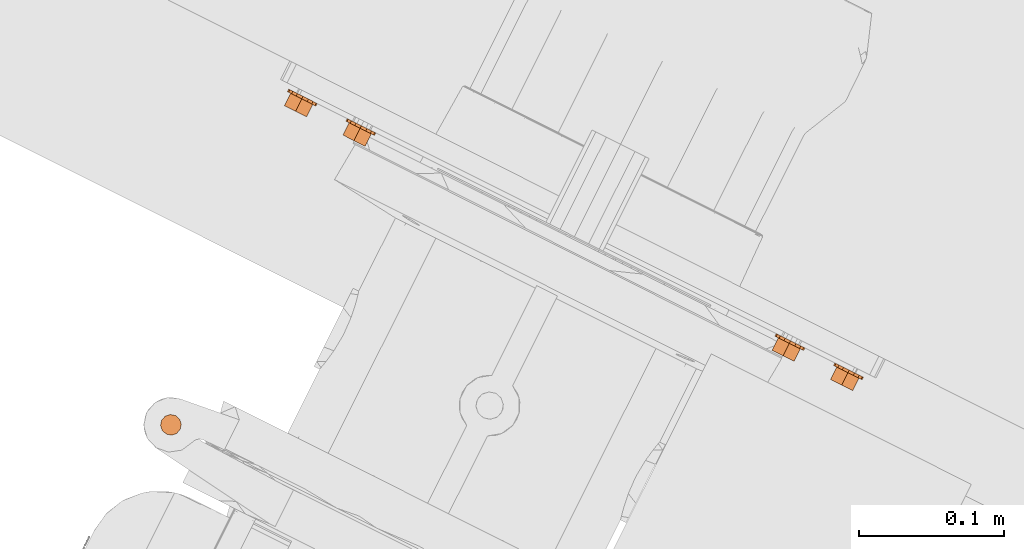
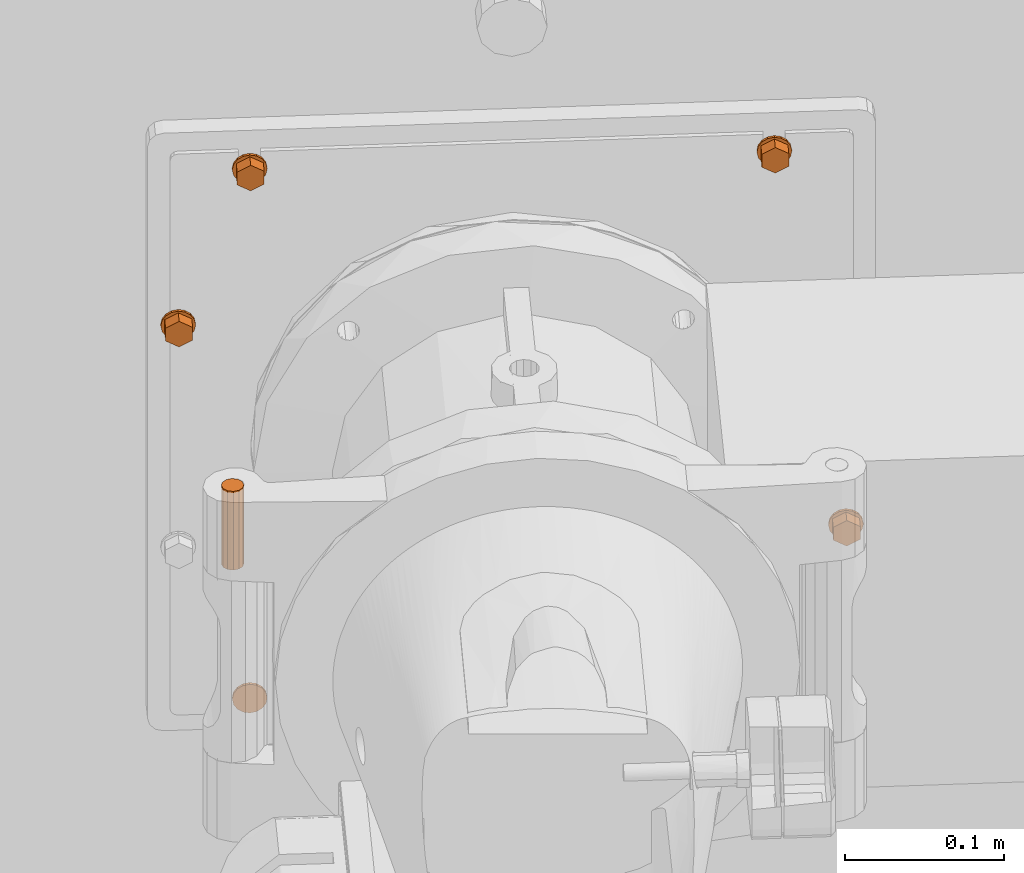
# One storey, part 203 of 206: 10 proxies.
"""IFC2X3 building model written with IfcOpenShell, lengths in metres."""

from ifc_helpers import new_model, si_unit, derived_unit, direction, frame, origin, place, context, subcontext, project, spatial, faceted_brep, source, transform, mapped, material, type_object, type_shapes, element, save


model = new_model("IFC2X3")

# Units and contexts
model_context = context("Model", 3, precision=5.2338327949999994e-05, world=origin(), true_north=direction((0.0, 1.0)))
body_context = subcontext(model_context, "Body", "Model", "MODEL_VIEW")
ifc_project = project(units=[si_unit("LENGTHUNIT", "METRE"), si_unit("AREAUNIT", "SQUARE_METRE"), si_unit("VOLUMEUNIT", "CUBIC_METRE"), si_unit("MASSUNIT", "GRAM", prefix="KILO"), si_unit("PLANEANGLEUNIT", "RADIAN"), derived_unit("THERMALTRANSMITTANCEUNIT", [(si_unit("MASSUNIT", "GRAM", prefix="KILO"), 1), (si_unit("THERMODYNAMICTEMPERATUREUNIT", "KELVIN"), -1), (si_unit("TIMEUNIT", "SECOND"), -3)])], contexts=[model_context])

# Site, building, storey
site_placement = place(None, frame((0.0, 0.0, 0.0), z_axis=(0.0, 0.0, 1.0), x_axis=(0.8939966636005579, -0.4480736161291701, 0.0)))
site = spatial("IfcSite", under=ifc_project, at=site_placement, Name="Default", CompositionType="ELEMENT")
building_placement = place(site_placement, origin())
building = spatial("IfcBuilding", under=site, at=building_placement, CompositionType="ELEMENT")
storey_placement = place(building_placement, origin())
storey = spatial("IfcBuildingStorey", under=building, at=storey_placement, Name="Erdgeschoss", CompositionType="ELEMENT", Elevation=0.0)

# Proxies
ifc_material = material(Name="IfcSurfaceStyle #631137")
building_element_proxy_type_1 = type_object("IfcBuildingElementProxyType", Name="BuildingElementProxy 41:BuildingElementProxy 41", PredefinedType="NOTDEFINED", material=ifc_material)
shared_shape_1 = source(origin(), body_context, "Body", "Brep", [
    faceted_brep([(21.247385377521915, 4.724128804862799, 0.9398002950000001), (21.25451037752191, 4.724128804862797, 0.9398002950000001), (21.244777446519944, 4.721520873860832, 0.9398002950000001), (21.25711830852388, 4.721520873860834, 0.9398002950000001), (21.243822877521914, 4.717958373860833, 0.9398002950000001), (21.25807287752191, 4.717958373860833, 0.9398002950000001), (21.244777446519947, 4.714395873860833, 0.9398002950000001), (21.25711830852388, 4.714395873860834, 0.9398002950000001), (21.247385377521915, 4.711787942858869, 0.9398002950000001), (21.254510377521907, 4.711787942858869, 0.9398002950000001), (21.250947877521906, 4.710833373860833, 0.9398002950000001), (21.250947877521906, 4.7250833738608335, 0.9398002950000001), (21.244777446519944, 4.721520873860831, 1.0001289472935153), (21.243822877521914, 4.7179583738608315, 1.0001289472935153), (21.244777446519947, 4.714395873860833, 1.0001289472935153), (21.247385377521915, 4.711787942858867, 1.0001289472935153), (21.250947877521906, 4.710833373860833, 1.0001289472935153), (21.254510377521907, 4.711787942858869, 1.0001289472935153), (21.25711830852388, 4.714395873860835, 1.0001289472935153), (21.25807287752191, 4.717958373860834, 1.0001289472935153), (21.257118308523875, 4.721520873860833, 1.0001289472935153), (21.25451037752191, 4.724128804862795, 1.0001289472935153), (21.250947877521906, 4.725083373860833, 1.0001289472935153), (21.247385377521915, 4.724128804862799, 1.0001289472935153)], [[[0, 1, 2]], [[2, 1, 3]], [[2, 3, 4]], [[4, 3, 5]], [[4, 5, 6]], [[6, 5, 7]], [[6, 7, 8]], [[8, 7, 9]], [[8, 9, 10]], [[0, 11, 1]], [[12, 4, 13]], [[13, 4, 6]], [[13, 6, 14]], [[14, 6, 8]], [[14, 8, 15]], [[15, 8, 10]], [[15, 10, 16]], [[16, 10, 9]], [[16, 9, 17]], [[17, 9, 7]], [[17, 7, 18]], [[18, 7, 5]], [[18, 5, 19]], [[19, 5, 3]], [[19, 3, 20]], [[20, 3, 1]], [[20, 1, 21]], [[21, 1, 11]], [[21, 11, 22]], [[22, 11, 0]], [[22, 0, 23]], [[23, 0, 2]], [[23, 2, 12]], [[12, 2, 4]], [[15, 17, 14]], [[14, 17, 18]], [[14, 18, 13]], [[13, 18, 19]], [[13, 19, 12]], [[12, 19, 20]], [[12, 20, 23]], [[23, 20, 21]], [[23, 21, 22]], [[15, 16, 17]]]),
])
type_shapes(building_element_proxy_type_1, [shared_shape_1])
proxy_1_placement = place(storey_placement, origin())
element("IfcBuildingElementProxy", 1, at=proxy_1_placement, inside=storey, type_object=building_element_proxy_type_1, material=ifc_material, Name="BuildingElementProxy 41", context=body_context, shape_type="MappedRepresentation", body=[
    mapped(shared_shape_1, transform((0.0, 0.0, 0.0), scale=1.0)),
])
building_element_proxy_type_2 = type_object("IfcBuildingElementProxyType", Name="BuildingElementProxy 45:BuildingElementProxy 45", PredefinedType="NOTDEFINED", material=ifc_material)
shared_shape_2 = source(origin(), body_context, "Body", "Brep", [
    faceted_brep([(21.271738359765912, 4.960535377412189, 1.0829889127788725), (21.275947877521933, 4.958535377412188, 1.0838262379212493), (21.275947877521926, 4.96053537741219, 1.0838262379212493), (21.280157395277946, 4.958535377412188, 1.0829889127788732), (21.280157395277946, 4.960535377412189, 1.0829889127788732), (21.283726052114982, 4.958535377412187, 1.080604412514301), (21.283726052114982, 4.960535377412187, 1.0806044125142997), (21.28611055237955, 4.958535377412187, 1.0770357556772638), (21.28611055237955, 4.960535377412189, 1.0770357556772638), (21.28694787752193, 4.958535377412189, 1.0728262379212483), (21.286947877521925, 4.960535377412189, 1.0728262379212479), (21.286110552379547, 4.958535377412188, 1.0686167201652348), (21.28611055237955, 4.96053537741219, 1.0686167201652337), (21.283726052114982, 4.958535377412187, 1.0650480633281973), (21.28372605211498, 4.960535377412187, 1.065048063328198), (21.280157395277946, 4.958535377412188, 1.0626635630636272), (21.280157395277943, 4.960535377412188, 1.0626635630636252), (21.275947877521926, 4.958535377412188, 1.0618262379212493), (21.275947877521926, 4.960535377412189, 1.0618262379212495), (21.271738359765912, 4.958535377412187, 1.0626635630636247), (21.27173835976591, 4.960535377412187, 1.062663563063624), (21.268169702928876, 4.958535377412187, 1.0650480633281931), (21.268169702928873, 4.960535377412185, 1.0650480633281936), (21.2657852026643, 4.958535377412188, 1.0686167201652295), (21.265785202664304, 4.96053537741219, 1.0686167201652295), (21.264947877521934, 4.958535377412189, 1.0728262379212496), (21.26494787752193, 4.960535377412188, 1.0728262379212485), (21.265785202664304, 4.958535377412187, 1.0770357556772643), (21.2657852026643, 4.960535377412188, 1.0770357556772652), (21.268169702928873, 4.958535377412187, 1.0806044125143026), (21.268169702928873, 4.960535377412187, 1.0806044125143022), (21.271738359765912, 4.958535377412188, 1.082988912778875)], [[[0, 1, 2]], [[2, 1, 3]], [[2, 3, 4]], [[4, 3, 5]], [[4, 5, 6]], [[6, 5, 7]], [[6, 7, 8]], [[8, 7, 9]], [[8, 9, 10]], [[10, 9, 11]], [[10, 11, 12]], [[12, 11, 13]], [[12, 13, 14]], [[14, 13, 15]], [[14, 15, 16]], [[16, 15, 17]], [[16, 17, 18]], [[18, 17, 19]], [[18, 19, 20]], [[20, 19, 21]], [[20, 21, 22]], [[22, 21, 23]], [[22, 23, 24]], [[24, 23, 25]], [[24, 25, 26]], [[26, 25, 27]], [[26, 27, 28]], [[28, 27, 29]], [[28, 29, 30]], [[30, 29, 31]], [[30, 31, 0]], [[0, 31, 1]], [[1, 31, 3]], [[3, 31, 5]], [[31, 29, 5]], [[5, 29, 7]], [[29, 27, 7]], [[7, 27, 9]], [[27, 25, 9]], [[9, 25, 11]], [[25, 23, 11]], [[11, 23, 13]], [[23, 21, 13]], [[13, 21, 15]], [[21, 19, 15]], [[15, 19, 17]], [[2, 4, 0]], [[0, 4, 30]], [[4, 6, 30]], [[30, 6, 28]], [[6, 8, 28]], [[28, 8, 26]], [[8, 10, 26]], [[26, 10, 24]], [[10, 12, 24]], [[24, 12, 22]], [[12, 14, 22]], [[22, 14, 20]], [[14, 16, 20]], [[20, 16, 18]]]),
])
type_shapes(building_element_proxy_type_2, [shared_shape_2])
proxy_2_placement = place(storey_placement, origin())
element("IfcBuildingElementProxy", 2, at=proxy_2_placement, inside=storey, type_object=building_element_proxy_type_2, material=ifc_material, Name="BuildingElementProxy 45", context=body_context, shape_type="MappedRepresentation", body=[
    mapped(shared_shape_2, transform((0.0, 0.0, 0.0), scale=1.0)),
])
building_element_proxy_type_3 = type_object("IfcBuildingElementProxyType", Name="BuildingElementProxy 65:BuildingElementProxy 65", PredefinedType="NOTDEFINED", material=ifc_material)
shared_shape_3 = source(origin(), body_context, "Body", "Brep", [
    faceted_brep([(21.226738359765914, 4.960535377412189, 0.9651626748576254), (21.230947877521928, 4.958535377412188, 0.9660000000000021), (21.230947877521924, 4.96053537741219, 0.9660000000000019), (21.235157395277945, 4.958535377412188, 0.9651626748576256), (21.235157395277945, 4.960535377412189, 0.9651626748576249), (21.238726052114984, 4.958535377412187, 0.9627781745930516), (21.23872605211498, 4.960535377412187, 0.9627781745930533), (21.241110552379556, 4.958535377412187, 0.9592095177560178), (21.241110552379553, 4.960535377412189, 0.959209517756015), (21.241947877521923, 4.958535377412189, 0.9550000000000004), (21.241947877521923, 4.960535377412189, 0.9549999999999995), (21.24111055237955, 4.958535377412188, 0.9507904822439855), (21.241110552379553, 4.96053537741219, 0.9507904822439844), (21.238726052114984, 4.958535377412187, 0.9472218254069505), (21.238726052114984, 4.960535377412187, 0.9472218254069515), (21.235157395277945, 4.958535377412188, 0.9448373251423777), (21.235157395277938, 4.960535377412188, 0.9448373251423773), (21.230947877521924, 4.958535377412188, 0.9440000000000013), (21.230947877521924, 4.960535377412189, 0.9440000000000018), (21.226738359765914, 4.958535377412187, 0.944837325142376), (21.22673835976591, 4.960535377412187, 0.9448373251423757), (21.223169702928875, 4.958535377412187, 0.9472218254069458), (21.223169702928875, 4.960535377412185, 0.9472218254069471), (21.2207852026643, 4.958535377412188, 0.9507904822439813), (21.220785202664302, 4.96053537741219, 0.9507904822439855), (21.219947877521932, 4.958535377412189, 0.9550000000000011), (21.219947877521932, 4.960535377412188, 0.9550000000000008), (21.2207852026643, 4.958535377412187, 0.9592095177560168), (21.220785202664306, 4.960535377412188, 0.9592095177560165), (21.223169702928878, 4.958535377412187, 0.9627781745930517), (21.223169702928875, 4.960535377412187, 0.9627781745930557), (21.226738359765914, 4.958535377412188, 0.9651626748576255)], [[[0, 1, 2]], [[2, 1, 3]], [[2, 3, 4]], [[4, 3, 5]], [[4, 5, 6]], [[6, 5, 7]], [[6, 7, 8]], [[8, 7, 9]], [[8, 9, 10]], [[10, 9, 11]], [[10, 11, 12]], [[12, 11, 13]], [[12, 13, 14]], [[14, 13, 15]], [[14, 15, 16]], [[16, 15, 17]], [[16, 17, 18]], [[18, 17, 19]], [[18, 19, 20]], [[20, 19, 21]], [[20, 21, 22]], [[22, 21, 23]], [[22, 23, 24]], [[24, 23, 25]], [[24, 25, 26]], [[26, 25, 27]], [[26, 27, 28]], [[28, 27, 29]], [[28, 29, 30]], [[30, 29, 31]], [[30, 31, 0]], [[0, 31, 1]], [[1, 31, 3]], [[3, 31, 5]], [[31, 29, 5]], [[5, 29, 7]], [[29, 27, 7]], [[7, 27, 9]], [[27, 25, 9]], [[9, 25, 11]], [[25, 23, 11]], [[11, 23, 13]], [[23, 21, 13]], [[13, 21, 15]], [[21, 19, 15]], [[15, 19, 17]], [[2, 4, 0]], [[0, 4, 30]], [[4, 6, 30]], [[30, 6, 28]], [[6, 8, 28]], [[28, 8, 26]], [[8, 10, 26]], [[26, 10, 24]], [[10, 12, 24]], [[24, 12, 22]], [[12, 14, 22]], [[22, 14, 20]], [[14, 16, 20]], [[20, 16, 18]]]),
])
type_shapes(building_element_proxy_type_3, [shared_shape_3])
proxy_3_placement = place(storey_placement, origin())
element("IfcBuildingElementProxy", 3, at=proxy_3_placement, inside=storey, type_object=building_element_proxy_type_3, material=ifc_material, Name="BuildingElementProxy 65", context=body_context, shape_type="MappedRepresentation", body=[
    mapped(shared_shape_3, transform((0.0, 0.0, 0.0), scale=1.0)),
])
building_element_proxy_type_4 = type_object("IfcBuildingElementProxyType", Name="BuildingElementProxy 67:BuildingElementProxy 67", PredefinedType="NOTDEFINED", material=ifc_material)
shared_shape_4 = source(origin(), body_context, "Body", "Brep", [
    faceted_brep([(21.271738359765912, 4.960535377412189, 0.6773364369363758), (21.275947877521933, 4.958535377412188, 0.6781737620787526), (21.275947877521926, 4.96053537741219, 0.6781737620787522), (21.280157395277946, 4.958535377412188, 0.6773364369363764), (21.280157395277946, 4.960535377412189, 0.6773364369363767), (21.283726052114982, 4.958535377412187, 0.6749519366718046), (21.283726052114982, 4.960535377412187, 0.674951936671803), (21.28611055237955, 4.958535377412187, 0.6713832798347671), (21.28611055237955, 4.960535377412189, 0.6713832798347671), (21.28694787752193, 4.958535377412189, 0.6671737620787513), (21.286947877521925, 4.960535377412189, 0.6671737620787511), (21.286110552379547, 4.958535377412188, 0.662964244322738), (21.28611055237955, 4.96053537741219, 0.662964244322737), (21.283726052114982, 4.958535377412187, 0.6593955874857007), (21.28372605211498, 4.960535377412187, 0.6593955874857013), (21.280157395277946, 4.958535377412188, 0.6570110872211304), (21.280157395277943, 4.960535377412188, 0.6570110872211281), (21.275947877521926, 4.958535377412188, 0.6561737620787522), (21.275947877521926, 4.960535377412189, 0.6561737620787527), (21.271738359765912, 4.958535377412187, 0.657011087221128), (21.27173835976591, 4.960535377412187, 0.6570110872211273), (21.268169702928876, 4.958535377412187, 0.6593955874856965), (21.268169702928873, 4.960535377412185, 0.6593955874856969), (21.2657852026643, 4.958535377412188, 0.6629642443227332), (21.265785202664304, 4.96053537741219, 0.6629642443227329), (21.264947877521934, 4.958535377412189, 0.6671737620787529), (21.26494787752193, 4.960535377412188, 0.6671737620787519), (21.265785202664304, 4.958535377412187, 0.6713832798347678), (21.2657852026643, 4.960535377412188, 0.6713832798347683), (21.268169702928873, 4.958535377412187, 0.6749519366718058), (21.268169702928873, 4.960535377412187, 0.6749519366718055), (21.271738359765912, 4.958535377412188, 0.6773364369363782)], [[[0, 1, 2]], [[2, 1, 3]], [[2, 3, 4]], [[4, 3, 5]], [[4, 5, 6]], [[6, 5, 7]], [[6, 7, 8]], [[8, 7, 9]], [[8, 9, 10]], [[10, 9, 11]], [[10, 11, 12]], [[12, 11, 13]], [[12, 13, 14]], [[14, 13, 15]], [[14, 15, 16]], [[16, 15, 17]], [[16, 17, 18]], [[18, 17, 19]], [[18, 19, 20]], [[20, 19, 21]], [[20, 21, 22]], [[22, 21, 23]], [[22, 23, 24]], [[24, 23, 25]], [[24, 25, 26]], [[26, 25, 27]], [[26, 27, 28]], [[28, 27, 29]], [[28, 29, 30]], [[30, 29, 31]], [[30, 31, 0]], [[0, 31, 1]], [[1, 31, 3]], [[3, 31, 5]], [[31, 29, 5]], [[5, 29, 7]], [[29, 27, 7]], [[7, 27, 9]], [[27, 25, 9]], [[9, 25, 11]], [[25, 23, 11]], [[11, 23, 13]], [[23, 21, 13]], [[13, 21, 15]], [[21, 19, 15]], [[15, 19, 17]], [[2, 4, 0]], [[0, 4, 30]], [[4, 6, 30]], [[30, 6, 28]], [[6, 8, 28]], [[28, 8, 26]], [[8, 10, 26]], [[26, 10, 24]], [[10, 12, 24]], [[24, 12, 22]], [[12, 14, 22]], [[22, 14, 20]], [[14, 16, 20]], [[20, 16, 18]]]),
])
type_shapes(building_element_proxy_type_4, [shared_shape_4])
proxy_4_placement = place(storey_placement, origin())
element("IfcBuildingElementProxy", 4, at=proxy_4_placement, inside=storey, type_object=building_element_proxy_type_4, material=ifc_material, Name="BuildingElementProxy 67", context=body_context, shape_type="MappedRepresentation", body=[
    mapped(shared_shape_4, transform((0.0, 0.0, 0.0), scale=1.0)),
])
building_element_proxy_type_5 = type_object("IfcBuildingElementProxyType", Name="BuildingElementProxy 71:BuildingElementProxy 71", PredefinedType="NOTDEFINED", material=ifc_material)
shared_shape_5 = source(origin(), body_context, "Body", "Brep", [
    faceted_brep([(21.650947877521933, 4.949035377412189, 0.7948149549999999), (21.646697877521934, 4.949035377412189, 0.7923612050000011), (21.655197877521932, 4.949035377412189, 0.7923612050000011), (21.655197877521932, 4.949035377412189, 0.7776387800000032), (21.65944787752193, 4.949035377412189, 0.7849999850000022), (21.65944787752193, 4.949035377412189, 0.7800925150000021), (21.64244787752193, 4.949035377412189, 0.7899074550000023), (21.64244787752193, 4.949035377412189, 0.7849999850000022), (21.646697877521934, 4.949035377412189, 0.777638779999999), (21.650947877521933, 4.949035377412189, 0.7751850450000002), (21.64244787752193, 4.949035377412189, 0.7800925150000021), (21.65944787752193, 4.949035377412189, 0.7899074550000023), (21.64244787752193, 4.958535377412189, 0.7800925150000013), (21.646697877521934, 4.958535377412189, 0.7776387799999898), (21.650947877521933, 4.958535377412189, 0.7751850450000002), (21.64244787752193, 4.958535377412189, 0.7899074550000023), (21.64244787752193, 4.958535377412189, 0.7849999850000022), (21.650947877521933, 4.958535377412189, 0.7948149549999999), (21.646697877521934, 4.958535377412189, 0.7923612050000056), (21.65944787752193, 4.958535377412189, 0.7899074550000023), (21.655197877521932, 4.958535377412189, 0.792361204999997), (21.659447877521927, 4.958535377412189, 0.7800925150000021), (21.659447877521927, 4.958535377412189, 0.7849999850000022), (21.655197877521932, 4.958535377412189, 0.7776387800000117)], [[[0, 1, 2]], [[2, 1, 3]], [[2, 3, 4]], [[4, 3, 5]], [[6, 7, 1]], [[1, 7, 8]], [[1, 8, 3]], [[3, 8, 9]], [[7, 10, 8]], [[4, 11, 2]], [[10, 12, 8]], [[8, 12, 13]], [[8, 13, 9]], [[9, 13, 14]], [[6, 15, 7]], [[7, 15, 16]], [[7, 16, 10]], [[10, 16, 12]], [[0, 17, 1]], [[1, 17, 18]], [[1, 18, 6]], [[6, 18, 15]], [[11, 19, 2]], [[2, 19, 20]], [[2, 20, 0]], [[0, 20, 17]], [[5, 21, 4]], [[4, 21, 22]], [[4, 22, 11]], [[11, 22, 19]], [[9, 14, 3]], [[3, 14, 23]], [[3, 23, 5]], [[5, 23, 21]], [[19, 22, 20]], [[20, 22, 23]], [[20, 23, 18]], [[18, 23, 13]], [[18, 13, 16]], [[16, 13, 12]], [[22, 21, 23]], [[23, 14, 13]], [[16, 15, 18]], [[18, 17, 20]]]),
])
type_shapes(building_element_proxy_type_5, [shared_shape_5])
proxy_5_placement = place(storey_placement, origin())
element("IfcBuildingElementProxy", 5, at=proxy_5_placement, inside=storey, type_object=building_element_proxy_type_5, material=ifc_material, Name="BuildingElementProxy 71", context=body_context, shape_type="MappedRepresentation", body=[
    mapped(shared_shape_5, transform((0.0, 0.0, 0.0), scale=1.0)),
])
building_element_proxy_type_6 = type_object("IfcBuildingElementProxyType", Name="BuildingElementProxy 78:BuildingElementProxy 78", PredefinedType="NOTDEFINED", material=ifc_material)
shared_shape_6 = source(origin(), body_context, "Body", "Brep", [
    faceted_brep([(21.28444787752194, 4.949035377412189, 1.0777336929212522), (21.280197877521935, 4.949035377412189, 1.0801874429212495), (21.28444787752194, 4.949035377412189, 1.0728262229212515), (21.280197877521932, 4.949035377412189, 1.0654650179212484), (21.284447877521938, 4.949035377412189, 1.0679187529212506), (21.27594787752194, 4.949035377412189, 1.0826411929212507), (21.27169787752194, 4.949035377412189, 1.0801874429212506), (21.271697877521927, 4.949035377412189, 1.0654650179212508), (21.27594787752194, 4.949035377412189, 1.0630112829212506), (21.26744787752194, 4.949035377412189, 1.0777336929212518), (21.26744787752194, 4.949035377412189, 1.072826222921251), (21.267447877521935, 4.949035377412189, 1.0679187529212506), (21.284447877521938, 4.958535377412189, 1.0679187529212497), (21.280197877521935, 4.958535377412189, 1.0654650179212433), (21.27594787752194, 4.958535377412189, 1.0630112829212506), (21.28444787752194, 4.958535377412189, 1.0777336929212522), (21.28444787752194, 4.958535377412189, 1.0728262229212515), (21.27594787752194, 4.958535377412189, 1.0826411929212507), (21.28019787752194, 4.958535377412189, 1.0801874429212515), (21.26744787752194, 4.958535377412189, 1.0777336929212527), (21.271697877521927, 4.958535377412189, 1.0801874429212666), (21.267447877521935, 4.958535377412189, 1.0679187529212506), (21.26744787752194, 4.958535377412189, 1.072826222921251), (21.271697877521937, 4.958535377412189, 1.065465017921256)], [[[0, 1, 2]], [[2, 1, 3]], [[2, 3, 4]], [[5, 6, 1]], [[1, 6, 7]], [[1, 7, 3]], [[3, 7, 8]], [[9, 10, 6]], [[6, 10, 7]], [[10, 11, 7]], [[12, 4, 13]], [[13, 4, 3]], [[13, 3, 14]], [[14, 3, 8]], [[15, 0, 16]], [[16, 0, 2]], [[16, 2, 12]], [[12, 2, 4]], [[17, 5, 18]], [[18, 5, 1]], [[18, 1, 15]], [[15, 1, 0]], [[19, 9, 20]], [[20, 9, 6]], [[20, 6, 17]], [[17, 6, 5]], [[21, 11, 22]], [[22, 11, 10]], [[22, 10, 19]], [[19, 10, 9]], [[14, 8, 23]], [[23, 8, 7]], [[23, 7, 21]], [[21, 7, 11]], [[21, 22, 23]], [[23, 22, 20]], [[23, 20, 18]], [[18, 20, 17]], [[22, 19, 20]], [[15, 16, 18]], [[18, 16, 13]], [[18, 13, 23]], [[23, 13, 14]], [[16, 12, 13]]]),
])
type_shapes(building_element_proxy_type_6, [shared_shape_6])
proxy_6_placement = place(storey_placement, origin())
element("IfcBuildingElementProxy", 6, at=proxy_6_placement, inside=storey, type_object=building_element_proxy_type_6, material=ifc_material, Name="BuildingElementProxy 78", context=body_context, shape_type="MappedRepresentation", body=[
    mapped(shared_shape_6, transform((0.0, 0.0, 0.0), scale=1.0)),
])
building_element_proxy_type_7 = type_object("IfcBuildingElementProxyType", Name="BuildingElementProxy 82:BuildingElementProxy 82", PredefinedType="NOTDEFINED", material=ifc_material)
shared_shape_7 = source(origin(), body_context, "Body", "Brep", [
    faceted_brep([(21.60594787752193, 4.949035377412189, 1.0826411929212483), (21.601697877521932, 4.949035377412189, 1.0801874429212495), (21.61019787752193, 4.949035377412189, 1.0801874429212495), (21.610197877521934, 4.949035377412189, 1.0654650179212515), (21.614447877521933, 4.949035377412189, 1.0728262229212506), (21.614447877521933, 4.949035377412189, 1.0679187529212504), (21.59744787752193, 4.949035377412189, 1.0777336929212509), (21.59744787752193, 4.949035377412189, 1.0728262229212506), (21.601697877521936, 4.949035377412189, 1.0654650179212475), (21.60594787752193, 4.949035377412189, 1.0630112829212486), (21.59744787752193, 4.949035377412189, 1.0679187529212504), (21.614447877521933, 4.949035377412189, 1.0777336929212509), (21.59744787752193, 4.958535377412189, 1.0679187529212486), (21.601697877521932, 4.958535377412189, 1.0654650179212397), (21.60594787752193, 4.958535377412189, 1.0630112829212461), (21.597447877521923, 4.958535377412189, 1.0777336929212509), (21.597447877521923, 4.958535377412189, 1.0728262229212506), (21.60594787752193, 4.958535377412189, 1.082641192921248), (21.601697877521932, 4.958535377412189, 1.080187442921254), (21.614447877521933, 4.958535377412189, 1.0777336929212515), (21.61019787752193, 4.958535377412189, 1.0801874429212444), (21.614447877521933, 4.958535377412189, 1.0679187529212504), (21.614447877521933, 4.958535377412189, 1.0728262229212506), (21.61019787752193, 4.958535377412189, 1.0654650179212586)], [[[0, 1, 2]], [[2, 1, 3]], [[2, 3, 4]], [[4, 3, 5]], [[6, 7, 1]], [[1, 7, 8]], [[1, 8, 3]], [[3, 8, 9]], [[7, 10, 8]], [[4, 11, 2]], [[10, 12, 8]], [[8, 12, 13]], [[8, 13, 9]], [[9, 13, 14]], [[6, 15, 7]], [[7, 15, 16]], [[7, 16, 10]], [[10, 16, 12]], [[0, 17, 1]], [[1, 17, 18]], [[1, 18, 6]], [[6, 18, 15]], [[11, 19, 2]], [[2, 19, 20]], [[2, 20, 0]], [[0, 20, 17]], [[5, 21, 4]], [[4, 21, 22]], [[4, 22, 11]], [[11, 22, 19]], [[9, 14, 3]], [[3, 14, 23]], [[3, 23, 5]], [[5, 23, 21]], [[19, 22, 20]], [[20, 22, 23]], [[20, 23, 18]], [[18, 23, 13]], [[18, 13, 16]], [[16, 13, 12]], [[22, 21, 23]], [[23, 14, 13]], [[16, 15, 18]], [[18, 17, 20]]]),
])
type_shapes(building_element_proxy_type_7, [shared_shape_7])
proxy_7_placement = place(storey_placement, origin())
element("IfcBuildingElementProxy", 7, at=proxy_7_placement, inside=storey, type_object=building_element_proxy_type_7, material=ifc_material, Name="BuildingElementProxy 82", context=body_context, shape_type="MappedRepresentation", body=[
    mapped(shared_shape_7, transform((0.0, 0.0, 0.0), scale=1.0)),
])
building_element_proxy_type_8 = type_object("IfcBuildingElementProxyType", Name="BuildingElementProxy 85:BuildingElementProxy 85", PredefinedType="NOTDEFINED", material=ifc_material)
shared_shape_8 = source(origin(), body_context, "Body", "Brep", [
    faceted_brep([(21.60173835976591, 4.960535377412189, 1.0829889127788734), (21.60594787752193, 4.958535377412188, 1.0838262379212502), (21.605947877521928, 4.96053537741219, 1.0838262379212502), (21.610157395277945, 4.958535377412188, 1.082988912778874), (21.610157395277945, 4.960535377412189, 1.0829889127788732), (21.61372605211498, 4.958535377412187, 1.080604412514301), (21.61372605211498, 4.960535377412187, 1.0806044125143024), (21.616110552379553, 4.958535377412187, 1.0770357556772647), (21.616110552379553, 4.960535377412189, 1.0770357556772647), (21.61694787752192, 4.958535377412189, 1.0728262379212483), (21.616947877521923, 4.960535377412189, 1.0728262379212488), (21.616110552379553, 4.958535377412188, 1.0686167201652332), (21.616110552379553, 4.96053537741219, 1.068616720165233), (21.613726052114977, 4.958535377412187, 1.0650480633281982), (21.61372605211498, 4.960535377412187, 1.065048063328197), (21.610157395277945, 4.958535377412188, 1.0626635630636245), (21.61015739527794, 4.960535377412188, 1.0626635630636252), (21.605947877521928, 4.958535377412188, 1.06182623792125), (21.605947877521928, 4.960535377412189, 1.0618262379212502), (21.60173835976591, 4.958535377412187, 1.0626635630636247), (21.601738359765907, 4.960535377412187, 1.0626635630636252), (21.598169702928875, 4.958535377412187, 1.065048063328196), (21.598169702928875, 4.960535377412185, 1.0650480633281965), (21.5957852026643, 4.958535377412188, 1.0686167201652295), (21.595785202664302, 4.96053537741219, 1.068616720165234), (21.594947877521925, 4.958535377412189, 1.0728262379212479), (21.59494787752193, 4.960535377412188, 1.0728262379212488), (21.595785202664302, 4.958535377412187, 1.0770357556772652), (21.595785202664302, 4.960535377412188, 1.0770357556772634), (21.598169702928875, 4.958535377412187, 1.0806044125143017), (21.598169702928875, 4.960535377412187, 1.0806044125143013), (21.60173835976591, 4.958535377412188, 1.082988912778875)], [[[0, 1, 2]], [[2, 1, 3]], [[2, 3, 4]], [[4, 3, 5]], [[4, 5, 6]], [[6, 5, 7]], [[6, 7, 8]], [[8, 7, 9]], [[8, 9, 10]], [[10, 9, 11]], [[10, 11, 12]], [[12, 11, 13]], [[12, 13, 14]], [[14, 13, 15]], [[14, 15, 16]], [[16, 15, 17]], [[16, 17, 18]], [[18, 17, 19]], [[18, 19, 20]], [[20, 19, 21]], [[20, 21, 22]], [[22, 21, 23]], [[22, 23, 24]], [[24, 23, 25]], [[24, 25, 26]], [[26, 25, 27]], [[26, 27, 28]], [[28, 27, 29]], [[28, 29, 30]], [[30, 29, 31]], [[30, 31, 0]], [[0, 31, 1]], [[1, 31, 3]], [[3, 31, 5]], [[31, 29, 5]], [[5, 29, 7]], [[29, 27, 7]], [[7, 27, 9]], [[27, 25, 9]], [[9, 25, 11]], [[25, 23, 11]], [[11, 23, 13]], [[23, 21, 13]], [[13, 21, 15]], [[21, 19, 15]], [[15, 19, 17]], [[2, 4, 0]], [[0, 4, 30]], [[4, 6, 30]], [[30, 6, 28]], [[6, 8, 28]], [[28, 8, 26]], [[8, 10, 26]], [[26, 10, 24]], [[10, 12, 24]], [[24, 12, 22]], [[12, 14, 22]], [[22, 14, 20]], [[14, 16, 20]], [[20, 16, 18]]]),
])
type_shapes(building_element_proxy_type_8, [shared_shape_8])
proxy_8_placement = place(storey_placement, origin())
element("IfcBuildingElementProxy", 8, at=proxy_8_placement, inside=storey, type_object=building_element_proxy_type_8, material=ifc_material, Name="BuildingElementProxy 85", context=body_context, shape_type="MappedRepresentation", body=[
    mapped(shared_shape_8, transform((0.0, 0.0, 0.0), scale=1.0)),
])
building_element_proxy_type_9 = type_object("IfcBuildingElementProxyType", Name="BuildingElementProxy 91:BuildingElementProxy 91", PredefinedType="NOTDEFINED", material=ifc_material)
shared_shape_9 = source(origin(), body_context, "Body", "Brep", [
    faceted_brep([(21.646738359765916, 4.960535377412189, 0.7951626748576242), (21.650947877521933, 4.958535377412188, 0.7960000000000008), (21.65094787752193, 4.96053537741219, 0.7960000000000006), (21.655157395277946, 4.958535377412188, 0.7951626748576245), (21.655157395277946, 4.960535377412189, 0.795162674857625), (21.658726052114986, 4.958535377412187, 0.7927781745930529), (21.65872605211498, 4.960535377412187, 0.7927781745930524), (21.66111055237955, 4.958535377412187, 0.7892095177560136), (21.66111055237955, 4.960535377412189, 0.789209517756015), (21.66194787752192, 4.958535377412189, 0.7850000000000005), (21.66194787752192, 4.960535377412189, 0.7849999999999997), (21.661110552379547, 4.958535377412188, 0.7807904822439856), (21.66111055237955, 4.96053537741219, 0.7807904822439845), (21.658726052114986, 4.958535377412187, 0.7772218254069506), (21.658726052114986, 4.960535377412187, 0.7772218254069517), (21.655157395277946, 4.958535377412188, 0.7748373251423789), (21.655157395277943, 4.960535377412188, 0.7748373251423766), (21.65094787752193, 4.958535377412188, 0.7740000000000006), (21.65094787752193, 4.960535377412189, 0.7740000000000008), (21.646738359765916, 4.958535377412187, 0.7748373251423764), (21.646738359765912, 4.960535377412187, 0.7748373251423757), (21.643169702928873, 4.958535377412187, 0.7772218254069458), (21.643169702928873, 4.960535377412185, 0.7772218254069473), (21.6407852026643, 4.958535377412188, 0.7807904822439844), (21.6407852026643, 4.96053537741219, 0.7807904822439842), (21.63994787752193, 4.958535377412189, 0.7850000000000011), (21.63994787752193, 4.960535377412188, 0.7850000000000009), (21.6407852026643, 4.958535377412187, 0.789209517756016), (21.640785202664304, 4.960535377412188, 0.7892095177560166), (21.643169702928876, 4.958535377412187, 0.792778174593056), (21.643169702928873, 4.960535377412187, 0.7927781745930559), (21.646738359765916, 4.958535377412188, 0.7951626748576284)], [[[0, 1, 2]], [[2, 1, 3]], [[2, 3, 4]], [[4, 3, 5]], [[4, 5, 6]], [[6, 5, 7]], [[6, 7, 8]], [[8, 7, 9]], [[8, 9, 10]], [[10, 9, 11]], [[10, 11, 12]], [[12, 11, 13]], [[12, 13, 14]], [[14, 13, 15]], [[14, 15, 16]], [[16, 15, 17]], [[16, 17, 18]], [[18, 17, 19]], [[18, 19, 20]], [[20, 19, 21]], [[20, 21, 22]], [[22, 21, 23]], [[22, 23, 24]], [[24, 23, 25]], [[24, 25, 26]], [[26, 25, 27]], [[26, 27, 28]], [[28, 27, 29]], [[28, 29, 30]], [[30, 29, 31]], [[30, 31, 0]], [[0, 31, 1]], [[1, 31, 3]], [[3, 31, 5]], [[31, 29, 5]], [[5, 29, 7]], [[29, 27, 7]], [[7, 27, 9]], [[27, 25, 9]], [[9, 25, 11]], [[25, 23, 11]], [[11, 23, 13]], [[23, 21, 13]], [[13, 21, 15]], [[21, 19, 15]], [[15, 19, 17]], [[2, 4, 0]], [[0, 4, 30]], [[4, 6, 30]], [[30, 6, 28]], [[6, 8, 28]], [[28, 8, 26]], [[8, 10, 26]], [[26, 10, 24]], [[10, 12, 24]], [[24, 12, 22]], [[12, 14, 22]], [[22, 14, 20]], [[14, 16, 20]], [[20, 16, 18]]]),
])
type_shapes(building_element_proxy_type_9, [shared_shape_9])
proxy_9_placement = place(storey_placement, origin())
element("IfcBuildingElementProxy", 9, at=proxy_9_placement, inside=storey, type_object=building_element_proxy_type_9, material=ifc_material, Name="BuildingElementProxy 91", context=body_context, shape_type="MappedRepresentation", body=[
    mapped(shared_shape_9, transform((0.0, 0.0, 0.0), scale=1.0)),
])
building_element_proxy_type_10 = type_object("IfcBuildingElementProxyType", Name="BuildingElementProxy 92:BuildingElementProxy 92", PredefinedType="NOTDEFINED", material=ifc_material)
shared_shape_10 = source(origin(), body_context, "Body", "Brep", [
    faceted_brep([(21.23944787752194, 4.949035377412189, 0.9599074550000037), (21.235197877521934, 4.949035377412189, 0.9623612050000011), (21.23944787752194, 4.949035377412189, 0.9549999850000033), (21.235197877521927, 4.949035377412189, 0.9476387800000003), (21.23944787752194, 4.949035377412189, 0.9500925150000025), (21.23094787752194, 4.949035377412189, 0.9648149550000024), (21.22669787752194, 4.949035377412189, 0.9623612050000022), (21.226697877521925, 4.949035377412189, 0.9476387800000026), (21.23094787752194, 4.949035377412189, 0.9451850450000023), (21.23944787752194, 4.958535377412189, 0.9500925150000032), (21.235197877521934, 4.958535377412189, 0.9476387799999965), (21.23094787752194, 4.958535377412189, 0.9451850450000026), (21.239447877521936, 4.958535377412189, 0.9599074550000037), (21.239447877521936, 4.958535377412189, 0.9549999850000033), (21.23094787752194, 4.958535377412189, 0.9648149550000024), (21.235197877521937, 4.958535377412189, 0.9623612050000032), (21.222447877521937, 4.958535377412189, 0.9599074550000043), (21.222447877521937, 4.949035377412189, 0.9599074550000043), (21.226697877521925, 4.958535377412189, 0.9623612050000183), (21.226697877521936, 4.958535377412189, 0.9476387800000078), (21.22244787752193, 4.958535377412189, 0.950092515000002), (21.22244787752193, 4.949035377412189, 0.9500925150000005), (21.22244787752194, 4.949035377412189, 0.9549999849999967), (21.222447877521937, 4.958535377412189, 0.9549999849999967)], [[[0, 1, 2]], [[2, 1, 3]], [[2, 3, 4]], [[5, 6, 1]], [[1, 6, 7]], [[1, 7, 3]], [[3, 7, 8]], [[9, 4, 10]], [[10, 4, 3]], [[10, 3, 11]], [[11, 3, 8]], [[12, 0, 13]], [[13, 0, 2]], [[13, 2, 9]], [[9, 2, 4]], [[14, 5, 15]], [[15, 5, 1]], [[15, 1, 12]], [[12, 1, 0]], [[16, 17, 18]], [[18, 17, 6]], [[18, 6, 14]], [[14, 6, 5]], [[11, 8, 19]], [[19, 8, 7]], [[19, 7, 20]], [[20, 7, 21]], [[19, 18, 15]], [[15, 18, 14]], [[12, 13, 15]], [[15, 13, 10]], [[15, 10, 19]], [[19, 10, 11]], [[13, 9, 10]], [[17, 22, 6]], [[6, 22, 7]], [[22, 21, 7]], [[20, 21, 23]], [[23, 21, 22]], [[23, 22, 16]], [[16, 22, 17]], [[20, 23, 19]], [[19, 23, 18]], [[23, 16, 18]]]),
])
type_shapes(building_element_proxy_type_10, [shared_shape_10])
proxy_10_placement = place(storey_placement, origin())
element("IfcBuildingElementProxy", 10, at=proxy_10_placement, inside=storey, type_object=building_element_proxy_type_10, material=ifc_material, Name="BuildingElementProxy 92", context=body_context, shape_type="MappedRepresentation", body=[
    mapped(shared_shape_10, transform((0.0, 0.0, 0.0), scale=1.0)),
])

save(model, "model.ifc")
